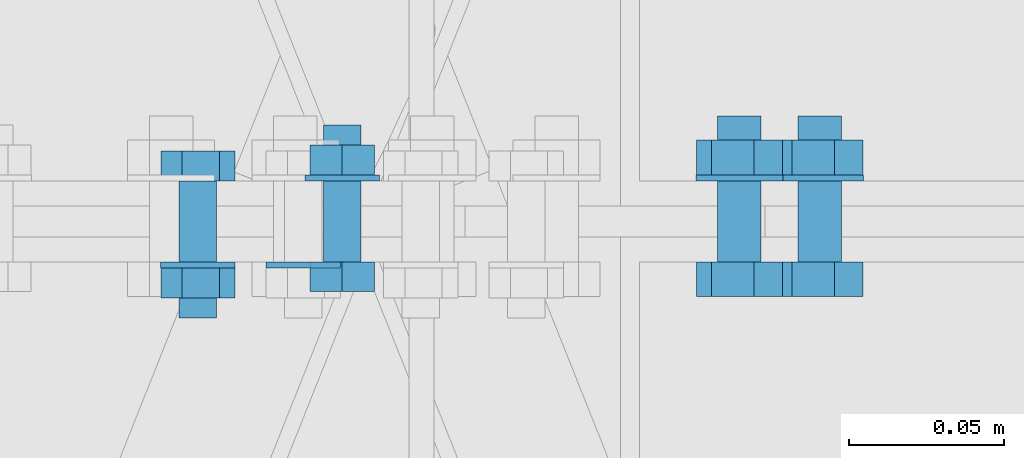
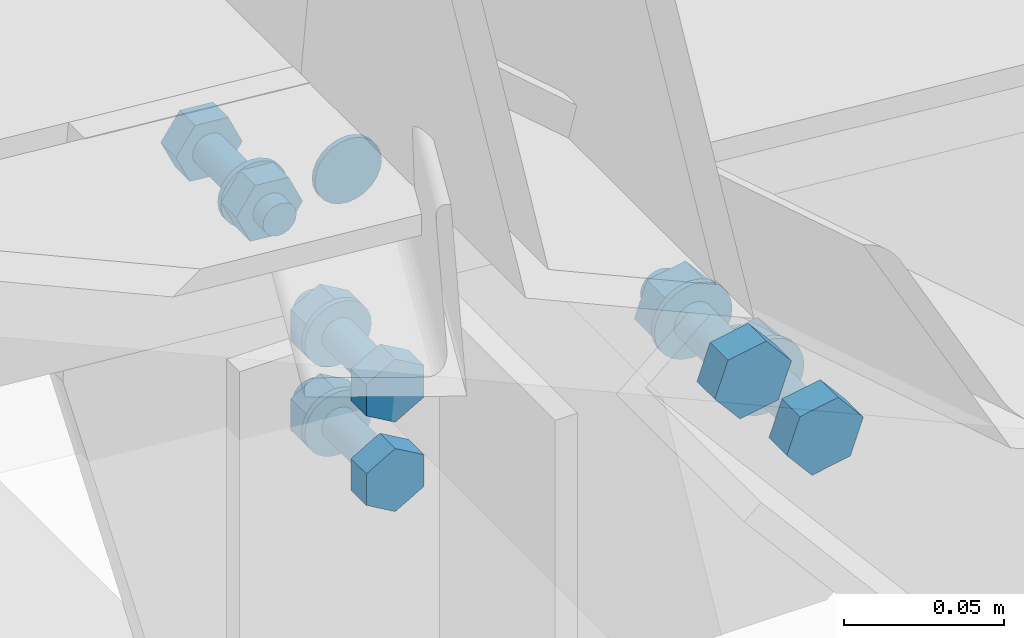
# One storey, part 177 of 251: 21 mechanical fasteners.
"""IFC4 building model written with IfcOpenShell, lengths in metres."""

from ifc_helpers import new_model, si_unit, frame, origin_with_axes, place, context, project, spatial, polyline, outline, extrude, type_object, element, save


model = new_model("IFC4")

# Units and contexts
model_context = context("Model", 3, precision=1e-05, world=origin_with_axes())
ifc_project = project(units=[si_unit("LENGTHUNIT", "METRE"), si_unit("AREAUNIT", "SQUARE_METRE"), si_unit("VOLUMEUNIT", "CUBIC_METRE"), si_unit("MASSUNIT", "GRAM", prefix="KILO"), si_unit("TIMEUNIT", "SECOND"), si_unit("PLANEANGLEUNIT", "RADIAN"), si_unit("SOLIDANGLEUNIT", "STERADIAN"), si_unit("THERMODYNAMICTEMPERATUREUNIT", "DEGREE_CELSIUS")], contexts=[model_context])

# Site, building, storey
placement_1 = place(None, origin_with_axes())
site = spatial("IfcSite", under=ifc_project, at=placement_1, Name="Italia", CompositionType="ELEMENT")
building = spatial("IfcBuilding", under=site, at=placement_1, Name="Deposito", CompositionType="ELEMENT")
storey = spatial("IfcBuildingStorey", under=building, at=placement_1, Name="Storey 0", CompositionType="ELEMENT", Elevation=0.0)

# Mechanical fasteners
mechanical_fastener_type_1 = type_object("IfcMechanicalFastenerType", Name="Reticolare 5", PredefinedType="BOLT")
placement_2 = place(placement_1, origin_with_axes())
mechanical_fastener_1_placement = place(placement_2, origin_with_axes())
element("IfcMechanicalFastener", 1, at=mechanical_fastener_1_placement, inside=storey, type_object=mechanical_fastener_type_1, Name="Reticolare 5", NominalDiameter=0.024, context=model_context, shape_type="SweptSolid", body=[
    extrude(outline(polyline([(0.0, 0.0), (-0.000408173, -0.00310564), (-0.00160599, -0.00600004), (-0.00351334, -0.00848532), (-0.00599861, -0.0103922), (-0.00889397, -0.011591), (-0.0119991, -0.0120001), (-0.0151043, -0.011591), (-0.0179996, -0.0103922), (-0.0204849, -0.00848532), (-0.0223923, -0.00600004), (-0.0235901, -0.00310564), (-0.0239983, 0.0), (-0.0235901, 0.00310564), (-0.0223923, 0.00600004), (-0.0204849, 0.00848532), (-0.0179996, 0.0103922), (-0.0151043, 0.011591), (-0.0119991, 0.0120001), (-0.00889397, 0.011591), (-0.00599861, 0.0103922), (-0.00351334, 0.00848532), (-0.00160599, 0.00600004), (-0.000408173, 0.00310564), (0.0, 0.0)])), frame((17.9761, 14.985, 6.16899), z_axis=(0.0, 1.0, 0.0), x_axis=(-1.0, 0.0, 0.0)), (0.0, 0.0, 1.0), 0.00200081),
])
mechanical_fastener_type_2 = type_object("IfcMechanicalFastenerType", Name="Reticolare 5", PredefinedType="BOLT")
mechanical_fastener_2_placement = place(placement_2, origin_with_axes())
element("IfcMechanicalFastener", 2, at=mechanical_fastener_2_placement, inside=storey, type_object=mechanical_fastener_type_2, Name="Reticolare 5", NominalDiameter=0.011999, context=model_context, shape_type="SweptSolid", body=[
    extrude(outline(polyline([(0.0, 0.0), (0.0119534, 0.0010457), (0.018837, -0.00878429), (0.0137653, -0.01966), (0.00181198, -0.0207057), (-0.00507164, -0.0108757), (0.0, 0.0)])), frame((17.9611, 15.013, 6.18179), z_axis=(0.0, 1.0, 0.0), x_axis=(-1.0, 0.0, 0.0)), (0.0, 0.0, 1.0), 0.00960064),
])
mechanical_fastener_type_3 = type_object("IfcMechanicalFastenerType", Name="Reticolare 5", PredefinedType="BOLT")
mechanical_fastener_3_placement = place(placement_2, origin_with_axes())
element("IfcMechanicalFastener", 3, at=mechanical_fastener_3_placement, inside=storey, type_object=mechanical_fastener_type_3, Name="Reticolare 5", NominalDiameter=0.012, context=model_context, shape_type="SweptSolid", body=[
    extrude(outline(polyline([(0.0, 0.0), (-0.000204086, -0.00155306), (-0.000804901, -0.00299978), (-0.00175858, -0.00424242), (-0.00300026, -0.00519609), (-0.00444794, -0.00579548), (-0.00600052, -0.00600004), (-0.0075531, -0.00579548), (-0.00900078, -0.00519609), (-0.0102425, -0.00424242), (-0.0111961, -0.00299978), (-0.011797, -0.00155306), (-0.012001, 0.0), (-0.011797, 0.00155306), (-0.0111961, 0.00299978), (-0.0102425, 0.00424242), (-0.00900078, 0.00519609), (-0.0075531, 0.00579548), (-0.00600052, 0.00600004), (-0.00444794, 0.00579548), (-0.00300026, 0.00519609), (-0.00175858, 0.00424242), (-0.000804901, 0.00299978), (-0.000204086, 0.00155306), (0.0, 0.0)])), frame((17.9482, 14.969, 6.17196), z_axis=(0.0, 1.0, 0.0), x_axis=(-1.0, 0.0, 0.0)), (0.0, 0.0, 1.0), 0.0439997),
])
mechanical_fastener_type_4 = type_object("IfcMechanicalFastenerType", Name="Reticolare 5", PredefinedType="BOLT")
mechanical_fastener_4_placement = place(placement_2, origin_with_axes())
element("IfcMechanicalFastener", 4, at=mechanical_fastener_4_placement, inside=storey, type_object=mechanical_fastener_type_4, Name="Reticolare 5", NominalDiameter=0.011999, context=model_context, shape_type="SweptSolid", body=[
    extrude(outline(polyline([(0.0, 0.0), (0.0119534, 0.0010457), (0.018837, -0.00878429), (0.0137653, -0.01966), (0.00181198, -0.0207057), (-0.00507164, -0.0108757), (0.0, 0.0)])), frame((17.9611, 14.9754, 6.18179), z_axis=(0.0, 1.0, 0.0), x_axis=(-1.0, 0.0, 0.0)), (0.0, 0.0, 1.0), 0.00959969),
])
mechanical_fastener_type_5 = type_object("IfcMechanicalFastenerType", Name="Reticolare 5", PredefinedType="BOLT")
mechanical_fastener_5_placement = place(placement_2, origin_with_axes())
element("IfcMechanicalFastener", 5, at=mechanical_fastener_5_placement, inside=storey, type_object=mechanical_fastener_type_5, Name="Reticolare 5", NominalDiameter=0.024, context=model_context, shape_type="SweptSolid", body=[
    extrude(outline(polyline([(0.0, 0.0), (-0.000408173, -0.00310564), (-0.00160599, -0.00600004), (-0.00351334, -0.00848532), (-0.00599861, -0.0103922), (-0.00889397, -0.011591), (-0.0119991, -0.0120001), (-0.0151043, -0.011591), (-0.0179996, -0.0103922), (-0.0204849, -0.00848532), (-0.0223923, -0.00600004), (-0.0235901, -0.00310564), (-0.0239983, 0.0), (-0.0235901, 0.00310564), (-0.0223923, 0.00600004), (-0.0204849, 0.00848532), (-0.0179996, 0.0103922), (-0.0151043, 0.011591), (-0.0119991, 0.0120001), (-0.00889397, 0.011591), (-0.00599861, 0.0103922), (-0.00351334, 0.00848532), (-0.00160599, 0.00600004), (-0.000408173, 0.00310564), (0.0, 0.0)])), frame((17.9422, 14.985, 6.17196), z_axis=(0.0, 1.0, 0.0), x_axis=(-1.0, 0.0, 0.0)), (0.0, 0.0, 1.0), 0.00200081),
])
mechanical_fastener_type_6 = type_object("IfcMechanicalFastenerType", Name="Reticolare 5", PredefinedType="BOLT")
mechanical_fastener_6_placement = place(placement_2, origin_with_axes())
element("IfcMechanicalFastener", 6, at=mechanical_fastener_6_placement, inside=storey, type_object=mechanical_fastener_type_6, Name="Reticolare 5", NominalDiameter=0.0120001, context=model_context, shape_type="SweptSolid", body=[
    extrude(outline(polyline([(0.0, 0.0), (0.0, -0.0120001), (-0.0103931, -0.0180001), (-0.0207863, -0.0120001), (-0.0207863, 0.0), (-0.0103931, 0.00600004), (0.0, 0.0)])), frame((18.011, 14.987, 6.09155), z_axis=(0.0, -1.0, 0.0), x_axis=(1.0, 0.0, 0.0)), (0.0, 0.0, 1.0), 0.00960064),
])
mechanical_fastener_type_7 = type_object("IfcMechanicalFastenerType", Name="Reticolare 5", PredefinedType="BOLT")
mechanical_fastener_7_placement = place(placement_2, origin_with_axes())
element("IfcMechanicalFastener", 7, at=mechanical_fastener_7_placement, inside=storey, type_object=mechanical_fastener_type_7, Name="Reticolare 5", NominalDiameter=0.012, context=model_context, shape_type="SweptSolid", body=[
    extrude(outline(polyline([(0.0, 0.0), (-0.000204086, -0.00155306), (-0.000804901, -0.00299978), (-0.00175858, -0.00424242), (-0.00300026, -0.00519609), (-0.00444794, -0.00579548), (-0.00600052, -0.00600004), (-0.0075531, -0.00579548), (-0.00900078, -0.00519609), (-0.0102425, -0.00424242), (-0.0111961, -0.00299978), (-0.011797, -0.00155306), (-0.012001, 0.0), (-0.011797, 0.00155306), (-0.0111961, 0.00299978), (-0.0102425, 0.00424242), (-0.00900078, 0.00519609), (-0.0075531, 0.00579548), (-0.00600052, 0.00600004), (-0.00444794, 0.00579548), (-0.00300026, 0.00519609), (-0.00175858, 0.00424242), (-0.000804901, 0.00299978), (-0.000204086, 0.00155306), (0.0, 0.0)])), frame((18.0066, 15.031, 6.08555), z_axis=(0.0, -1.0, 0.0), x_axis=(1.0, 0.0, 0.0)), (0.0, 0.0, 1.0), 0.0439997),
])
mechanical_fastener_type_8 = type_object("IfcMechanicalFastenerType", Name="Reticolare 5", PredefinedType="BOLT")
mechanical_fastener_8_placement = place(placement_2, origin_with_axes())
element("IfcMechanicalFastener", 8, at=mechanical_fastener_8_placement, inside=storey, type_object=mechanical_fastener_type_8, Name="Reticolare 5", NominalDiameter=0.0120001, context=model_context, shape_type="SweptSolid", body=[
    extrude(outline(polyline([(0.0, 0.0), (0.0, -0.0120001), (-0.0103931, -0.0180001), (-0.0207863, -0.0120001), (-0.0207863, 0.0), (-0.0103931, 0.00600004), (0.0, 0.0)])), frame((18.011, 15.0246, 6.09155), z_axis=(0.0, -1.0, 0.0), x_axis=(1.0, 0.0, 0.0)), (0.0, 0.0, 1.0), 0.00959969),
])
mechanical_fastener_type_9 = type_object("IfcMechanicalFastenerType", Name="Reticolare 5", PredefinedType="BOLT")
mechanical_fastener_9_placement = place(placement_2, origin_with_axes())
element("IfcMechanicalFastener", 9, at=mechanical_fastener_9_placement, inside=storey, type_object=mechanical_fastener_type_9, Name="Reticolare 5", NominalDiameter=0.024, context=model_context, shape_type="SweptSolid", body=[
    extrude(outline(polyline([(0.0, 0.0), (-0.000408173, -0.00310564), (-0.00160599, -0.00600004), (-0.00351334, -0.00848532), (-0.00599861, -0.0103922), (-0.00889397, -0.011591), (-0.0119991, -0.0120001), (-0.0151043, -0.011591), (-0.0179996, -0.0103922), (-0.0204849, -0.00848532), (-0.0223923, -0.00600004), (-0.0235901, -0.00310564), (-0.0239983, 0.0), (-0.0235901, 0.00310564), (-0.0223923, 0.00600004), (-0.0204849, 0.00848532), (-0.0179996, 0.0103922), (-0.0151043, 0.011591), (-0.0119991, 0.0120001), (-0.00889397, 0.011591), (-0.00599861, 0.0103922), (-0.00351334, 0.00848532), (-0.00160599, 0.00600004), (-0.000408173, 0.00310564), (0.0, 0.0)])), frame((18.0126, 15.015, 6.08555), z_axis=(0.0, -1.0, 0.0), x_axis=(1.0, 0.0, 0.0)), (0.0, 0.0, 1.0), 0.00200081),
])
mechanical_fastener_type_10 = type_object("IfcMechanicalFastenerType", Name="Reticolare 5", PredefinedType="BOLT")
mechanical_fastener_10_placement = place(placement_2, origin_with_axes())
element("IfcMechanicalFastener", 10, at=mechanical_fastener_10_placement, inside=storey, type_object=mechanical_fastener_type_10, Name="Reticolare 5", NominalDiameter=0.0120001, context=model_context, shape_type="SweptSolid", body=[
    extrude(outline(polyline([(0.0, 0.0), (0.0, -0.0120001), (-0.0103931, -0.0180001), (-0.0207863, -0.0120001), (-0.0207863, 0.0), (-0.0103931, 0.00600004), (0.0, 0.0)])), frame((18.011, 14.987, 6.05755), z_axis=(0.0, -1.0, 0.0), x_axis=(1.0, 0.0, 0.0)), (0.0, 0.0, 1.0), 0.00960064),
])
mechanical_fastener_type_11 = type_object("IfcMechanicalFastenerType", Name="Reticolare 5", PredefinedType="BOLT")
mechanical_fastener_11_placement = place(placement_2, origin_with_axes())
element("IfcMechanicalFastener", 11, at=mechanical_fastener_11_placement, inside=storey, type_object=mechanical_fastener_type_11, Name="Reticolare 5", NominalDiameter=0.012, context=model_context, shape_type="SweptSolid", body=[
    extrude(outline(polyline([(0.0, 0.0), (-0.000204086, -0.00155306), (-0.000804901, -0.00299978), (-0.00175858, -0.00424242), (-0.00300026, -0.00519609), (-0.00444794, -0.00579548), (-0.00600052, -0.00600004), (-0.0075531, -0.00579548), (-0.00900078, -0.00519609), (-0.0102425, -0.00424242), (-0.0111961, -0.00299978), (-0.011797, -0.00155306), (-0.012001, 0.0), (-0.011797, 0.00155306), (-0.0111961, 0.00299978), (-0.0102425, 0.00424242), (-0.00900078, 0.00519609), (-0.0075531, 0.00579548), (-0.00600052, 0.00600004), (-0.00444794, 0.00579548), (-0.00300026, 0.00519609), (-0.00175858, 0.00424242), (-0.000804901, 0.00299978), (-0.000204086, 0.00155306), (0.0, 0.0)])), frame((18.0066, 15.031, 6.05155), z_axis=(0.0, -1.0, 0.0), x_axis=(1.0, 0.0, 0.0)), (0.0, 0.0, 1.0), 0.0439997),
])
mechanical_fastener_type_12 = type_object("IfcMechanicalFastenerType", Name="Reticolare 5", PredefinedType="BOLT")
mechanical_fastener_12_placement = place(placement_2, origin_with_axes())
element("IfcMechanicalFastener", 12, at=mechanical_fastener_12_placement, inside=storey, type_object=mechanical_fastener_type_12, Name="Reticolare 5", NominalDiameter=0.0120001, context=model_context, shape_type="SweptSolid", body=[
    extrude(outline(polyline([(0.0, 0.0), (0.0, -0.0120001), (-0.0103931, -0.0180001), (-0.0207863, -0.0120001), (-0.0207863, 0.0), (-0.0103931, 0.00600004), (0.0, 0.0)])), frame((18.011, 15.0246, 6.05755), z_axis=(0.0, -1.0, 0.0), x_axis=(1.0, 0.0, 0.0)), (0.0, 0.0, 1.0), 0.00959969),
])
mechanical_fastener_type_13 = type_object("IfcMechanicalFastenerType", Name="Reticolare 5", PredefinedType="BOLT")
mechanical_fastener_13_placement = place(placement_2, origin_with_axes())
element("IfcMechanicalFastener", 13, at=mechanical_fastener_13_placement, inside=storey, type_object=mechanical_fastener_type_13, Name="Reticolare 5", NominalDiameter=0.024, context=model_context, shape_type="SweptSolid", body=[
    extrude(outline(polyline([(0.0, 0.0), (-0.000408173, -0.00310564), (-0.00160599, -0.00600004), (-0.00351334, -0.00848532), (-0.00599861, -0.0103922), (-0.00889397, -0.011591), (-0.0119991, -0.0120001), (-0.0151043, -0.011591), (-0.0179996, -0.0103922), (-0.0204849, -0.00848532), (-0.0223923, -0.00600004), (-0.0235901, -0.00310564), (-0.0239983, 0.0), (-0.0235901, 0.00310564), (-0.0223923, 0.00600004), (-0.0204849, 0.00848532), (-0.0179996, 0.0103922), (-0.0151043, 0.011591), (-0.0119991, 0.0120001), (-0.00889397, 0.011591), (-0.00599861, 0.0103922), (-0.00351334, 0.00848532), (-0.00160599, 0.00600004), (-0.000408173, 0.00310564), (0.0, 0.0)])), frame((18.0126, 15.015, 6.05155), z_axis=(0.0, -1.0, 0.0), x_axis=(1.0, 0.0, 0.0)), (0.0, 0.0, 1.0), 0.00200081),
])
mechanical_fastener_type_14 = type_object("IfcMechanicalFastenerType", Name="Reticolare 5", PredefinedType="BOLT")
mechanical_fastener_14_placement = place(placement_2, origin_with_axes())
element("IfcMechanicalFastener", 14, at=mechanical_fastener_14_placement, inside=storey, type_object=mechanical_fastener_type_14, Name="Reticolare 5", NominalDiameter=0.013999, context=model_context, shape_type="SweptSolid", body=[
    extrude(outline(polyline([(0.0, 0.0), (-0.009058, 0.0106759), (-0.00433922, 0.0238571), (0.00943375, 0.0263624), (0.0184898, 0.0156865), (0.013773, 0.0025053), (0.0, 0.0)])), frame((18.1237, 14.987, 6.03264), z_axis=(0.0, -1.0, 0.0), x_axis=(1.0, 0.0, 0.0)), (0.0, 0.0, 1.0), 0.0112009),
])
mechanical_fastener_type_15 = type_object("IfcMechanicalFastenerType", Name="Reticolare 5", PredefinedType="BOLT")
mechanical_fastener_15_placement = place(placement_2, origin_with_axes())
element("IfcMechanicalFastener", 15, at=mechanical_fastener_15_placement, inside=storey, type_object=mechanical_fastener_type_15, Name="Reticolare 5", NominalDiameter=0.014, context=model_context, shape_type="SweptSolid", body=[
    extrude(outline(polyline([(0.0, 0.0), (-0.000238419, -0.0018115), (-0.000938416, -0.00349998), (-0.0020504, -0.00494957), (-0.00349998, -0.00606203), (-0.00518799, -0.00676155), (-0.00699997, -0.00699997), (-0.00881195, -0.00676155), (-0.0105, -0.00606203), (-0.0119495, -0.00494957), (-0.0130615, -0.00349998), (-0.0137615, -0.0018115), (-0.0139999, 0.0), (-0.0137615, 0.0018115), (-0.0130615, 0.00349998), (-0.0119495, 0.00494957), (-0.0105, 0.00606203), (-0.00881195, 0.00676155), (-0.00699997, 0.00699997), (-0.00518799, 0.00676155), (-0.00349998, 0.00606203), (-0.0020504, 0.00494957), (-0.000938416, 0.00349998), (-0.000238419, 0.0018115), (0.0, 0.0)])), frame((18.1354, 15.034, 6.04582), z_axis=(0.0, -1.0, 0.0), x_axis=(1.0, 0.0, 0.0)), (0.0, 0.0, 1.0), 0.0469999),
])
mechanical_fastener_type_16 = type_object("IfcMechanicalFastenerType", Name="Reticolare 5", PredefinedType="BOLT")
mechanical_fastener_16_placement = place(placement_2, origin_with_axes())
element("IfcMechanicalFastener", 16, at=mechanical_fastener_16_placement, inside=storey, type_object=mechanical_fastener_type_16, Name="Reticolare 5", NominalDiameter=0.013999, context=model_context, shape_type="SweptSolid", body=[
    extrude(outline(polyline([(0.0, 0.0), (-0.009058, 0.0106759), (-0.00433922, 0.0238571), (0.00943375, 0.0263624), (0.0184898, 0.0156865), (0.013773, 0.0025053), (0.0, 0.0)])), frame((18.1237, 15.0262, 6.03264), z_axis=(0.0, -1.0, 0.0), x_axis=(1.0, 0.0, 0.0)), (0.0, 0.0, 1.0), 0.0112),
])
mechanical_fastener_type_17 = type_object("IfcMechanicalFastenerType", Name="Reticolare 5", PredefinedType="BOLT")
mechanical_fastener_17_placement = place(placement_2, origin_with_axes())
element("IfcMechanicalFastener", 17, at=mechanical_fastener_17_placement, inside=storey, type_object=mechanical_fastener_type_17, Name="Reticolare 5", NominalDiameter=0.028, context=model_context, shape_type="SweptSolid", body=[
    extrude(outline(polyline([(0.0, 0.0), (-0.000476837, -0.00362349), (-0.00187492, -0.00699997), (-0.0041008, -0.00989962), (-0.00699997, -0.0121245), (-0.010376, -0.0135231), (-0.0139999, -0.0139999), (-0.0176239, -0.0135231), (-0.0209999, -0.0121245), (-0.0238991, -0.00989962), (-0.026125, -0.00699997), (-0.027523, -0.00362349), (-0.0279999, 0.0), (-0.027523, 0.00362349), (-0.026125, 0.00699997), (-0.0238991, 0.00989962), (-0.0209999, 0.0121245), (-0.0176239, 0.0135231), (-0.0139999, 0.0139999), (-0.010376, 0.0135231), (-0.00699997, 0.0121245), (-0.0041008, 0.00989962), (-0.00187492, 0.00699997), (-0.000476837, 0.00362349), (0.0, 0.0)])), frame((18.1424, 15.015, 6.04582), z_axis=(0.0, -1.0, 0.0), x_axis=(1.0, 0.0, 0.0)), (0.0, 0.0, 1.0), 0.00200081),
])
mechanical_fastener_type_18 = type_object("IfcMechanicalFastenerType", Name="Reticolare 5", PredefinedType="BOLT")
mechanical_fastener_18_placement = place(placement_2, origin_with_axes())
element("IfcMechanicalFastener", 18, at=mechanical_fastener_18_placement, inside=storey, type_object=mechanical_fastener_type_18, Name="Reticolare 5", NominalDiameter=0.0139996, context=model_context, shape_type="SweptSolid", body=[
    extrude(outline(polyline([(0.0, 0.0), (-0.00905609, 0.0106759), (-0.00433922, 0.0238571), (0.00943565, 0.0263624), (0.0184917, 0.0156865), (0.0137749, 0.0025053), (0.0, 0.0)])), frame((18.1496, 14.987, 6.00214), z_axis=(0.0, -1.0, 0.0), x_axis=(1.0, 0.0, 0.0)), (0.0, 0.0, 1.0), 0.0112009),
])
mechanical_fastener_type_19 = type_object("IfcMechanicalFastenerType", Name="Reticolare 5", PredefinedType="BOLT")
mechanical_fastener_19_placement = place(placement_2, origin_with_axes())
element("IfcMechanicalFastener", 19, at=mechanical_fastener_19_placement, inside=storey, type_object=mechanical_fastener_type_19, Name="Reticolare 5", NominalDiameter=0.014, context=model_context, shape_type="SweptSolid", body=[
    extrude(outline(polyline([(0.0, 0.0), (-0.000238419, -0.0018115), (-0.000938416, -0.00349998), (-0.0020504, -0.00494957), (-0.00349998, -0.00606203), (-0.00518799, -0.00676155), (-0.00699997, -0.00699997), (-0.00881195, -0.00676155), (-0.0105, -0.00606203), (-0.0119495, -0.00494957), (-0.0130615, -0.00349998), (-0.0137615, -0.0018115), (-0.0139999, 0.0), (-0.0137615, 0.0018115), (-0.0130615, 0.00349998), (-0.0119495, 0.00494957), (-0.0105, 0.00606203), (-0.00881195, 0.00676155), (-0.00699997, 0.00699997), (-0.00518799, 0.00676155), (-0.00349998, 0.00606203), (-0.0020504, 0.00494957), (-0.000938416, 0.00349998), (-0.000238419, 0.0018115), (0.0, 0.0)])), frame((18.1613, 15.034, 6.01532), z_axis=(0.0, -1.0, 0.0), x_axis=(1.0, 0.0, 0.0)), (0.0, 0.0, 1.0), 0.0469999),
])
mechanical_fastener_type_20 = type_object("IfcMechanicalFastenerType", Name="Reticolare 5", PredefinedType="BOLT")
mechanical_fastener_20_placement = place(placement_2, origin_with_axes())
element("IfcMechanicalFastener", 20, at=mechanical_fastener_20_placement, inside=storey, type_object=mechanical_fastener_type_20, Name="Reticolare 5", NominalDiameter=0.0139996, context=model_context, shape_type="SweptSolid", body=[
    extrude(outline(polyline([(0.0, 0.0), (-0.00905609, 0.0106759), (-0.00433922, 0.0238571), (0.00943565, 0.0263624), (0.0184917, 0.0156865), (0.0137749, 0.0025053), (0.0, 0.0)])), frame((18.1496, 15.0262, 6.00214), z_axis=(0.0, -1.0, 0.0), x_axis=(1.0, 0.0, 0.0)), (0.0, 0.0, 1.0), 0.0112),
])
mechanical_fastener_type_21 = type_object("IfcMechanicalFastenerType", Name="Reticolare 5", PredefinedType="BOLT")
mechanical_fastener_21_placement = place(placement_2, origin_with_axes())
element("IfcMechanicalFastener", 21, at=mechanical_fastener_21_placement, inside=storey, type_object=mechanical_fastener_type_21, Name="Reticolare 5", NominalDiameter=0.028, context=model_context, shape_type="SweptSolid", body=[
    extrude(outline(polyline([(0.0, 0.0), (-0.000476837, -0.00362349), (-0.00187492, -0.00699997), (-0.0041008, -0.00989962), (-0.00699997, -0.0121245), (-0.010376, -0.0135231), (-0.0139999, -0.0139999), (-0.0176239, -0.0135231), (-0.0209999, -0.0121245), (-0.0238991, -0.00989962), (-0.026125, -0.00699997), (-0.027523, -0.00362349), (-0.0279999, 0.0), (-0.027523, 0.00362349), (-0.026125, 0.00699997), (-0.0238991, 0.00989962), (-0.0209999, 0.0121245), (-0.0176239, 0.0135231), (-0.0139999, 0.0139999), (-0.010376, 0.0135231), (-0.00699997, 0.0121245), (-0.0041008, 0.00989962), (-0.00187492, 0.00699997), (-0.000476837, 0.00362349), (0.0, 0.0)])), frame((18.1683, 15.015, 6.01532), z_axis=(0.0, -1.0, 0.0), x_axis=(1.0, 0.0, 0.0)), (0.0, 0.0, 1.0), 0.00200081),
])

save(model, "model.ifc")
